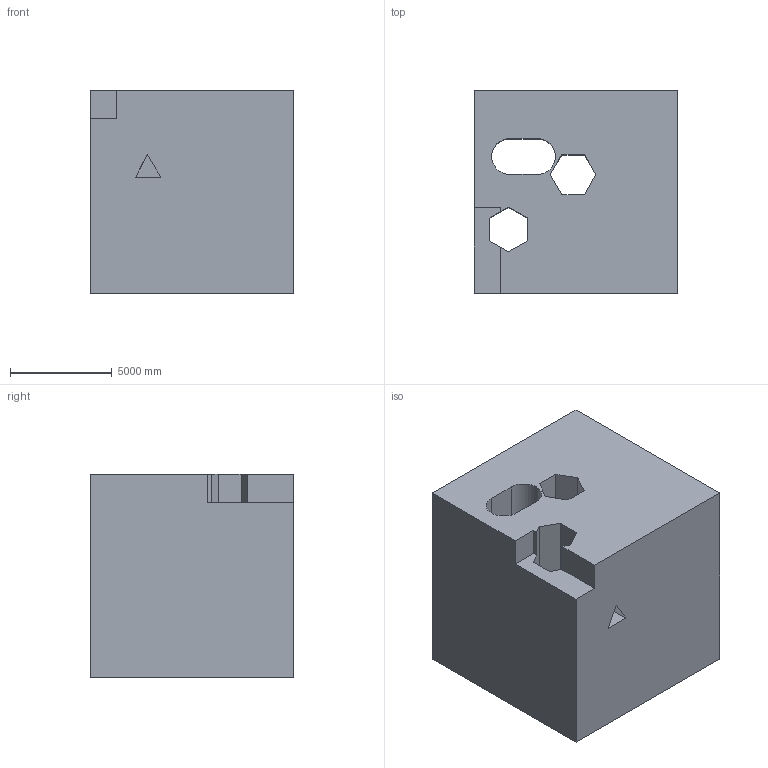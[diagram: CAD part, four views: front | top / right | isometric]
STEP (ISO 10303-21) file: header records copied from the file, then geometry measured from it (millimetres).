
FILE_DESCRIPTION (( 'STEP AP203' ), '1' );
FILE_NAME ('1715.STEP', '2022-08-19T12:00:14', ( 'user' ), ( '' ), 'SwSTEP 2.0', 'SolidWorks 2021', '' );
FILE_SCHEMA (( 'CONFIG_CONTROL_DESIGN' ));
Length unit declared in the file: centimetre
Products named in the file (1): 1715
Bounding box: 10000 x 10000 x 10000 mm (x, y, z)
Volume: 847772813807.5 mm3; surface area: 829327789 mm2
Topology: 1 solids, 1 shells, 46 faces, 141 edges, 94 vertices
Faces by surface type: plane 39, cylinder 7
Entity records: 1825 total; most frequent: CARTESIAN_POINT 453, ORIENTED_EDGE 282, DIRECTION 249, EDGE_CURVE 141, LINE 123, VECTOR 123, VERTEX_POINT 94, AXIS2_PLACEMENT_3D 63
